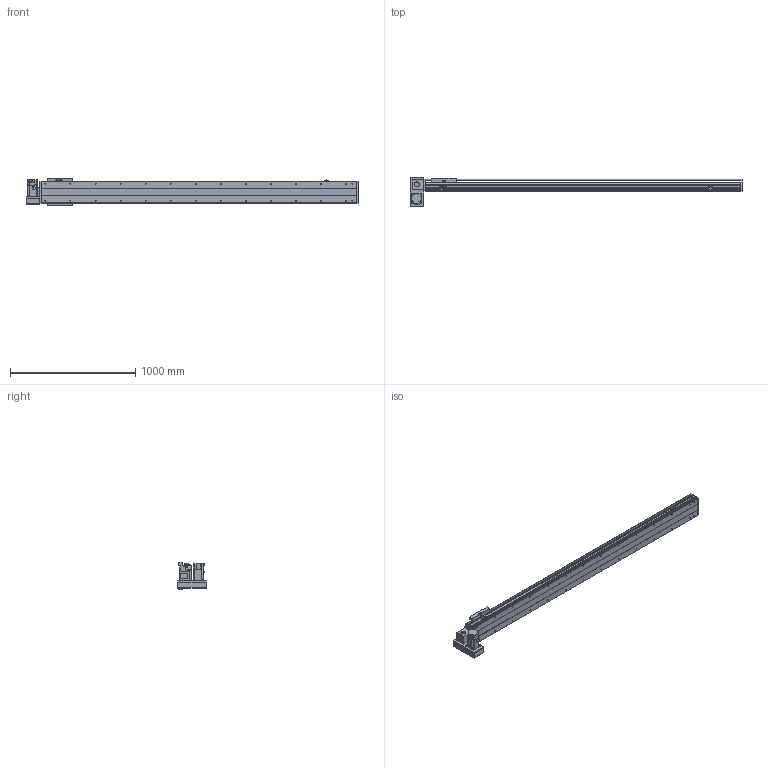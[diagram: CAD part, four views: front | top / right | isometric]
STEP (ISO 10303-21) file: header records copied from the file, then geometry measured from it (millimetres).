
FILE_DESCRIPTION(/* description */ ('STEP AP214'),/* implementation_level */ '2;1');
FILE_NAME(/* name */ 'PBS200-P40-S2150-LD-T75-C1-N(0)',/* time_stamp */ '2022-06-11T08:45:56+02:00',/* author */ ('License CC BY-ND 4.0'),/* organization */ ('CADENAS'),/* preprocessor_version */ 'ST-DEVELOPER v18.102',/* originating_system */ 'PARTsolutions',/* authorisation */ ' ');
FILE_SCHEMA (('AUTOMOTIVE_DESIGN {1 0 10303 214 3 1 1}'));
Length unit declared in the file: millimetre
Products named in the file (7): PBS200-P40-S2150-LD-T75-C1-N(0); PBS200_sensor; PBS200_plant; PBS200_sliser; T75-p1; PBS200T-LD_motors; PBS200-S2150()_body
Assembly tree (8 placements, depth 2):
  PBS200-P40-S2150-LD-T75-C1-N(0)
    PBS200_sensor  x3
    PBS200_plant
    PBS200_sliser
    T75-p1
    PBS200T-LD_motors
    PBS200-S2150()_body
Bounding box: 2650 x 230 x 221 mm (x, y, z)
Volume: 18417972.5 mm3; surface area: 2951995 mm2
Topology: 8 solids, 8 shells, 956 faces, 2434 edges, 1584 vertices
Faces by surface type: plane 586, cylinder 310, cone 60
Full cylindrical faces by diameter (mm): 2.459 x6, 3.242 x4, 4.5 x6, 4.917 x4, 5 x6, 6 x7, 6.6 x8, 6.647 x32, 8 x6, 10 x4, 12 x8, 38 x2, 40 x1, 70 x1
Entity records: 25301 total; most frequent: DIRECTION 4471, CARTESIAN_POINT 4300, ORIENTED_EDGE 4054, EDGE_CURVE 2027, AXIS2_PLACEMENT_3D 1579, VERTEX_POINT 1408, LINE 1313, VECTOR 1313
